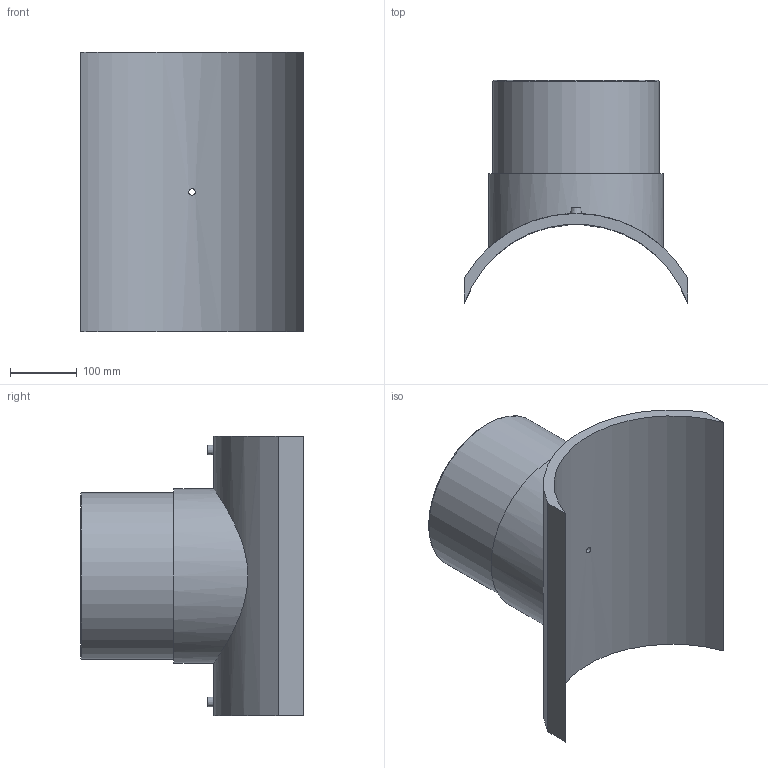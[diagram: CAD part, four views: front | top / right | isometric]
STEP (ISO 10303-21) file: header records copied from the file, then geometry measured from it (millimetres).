
FILE_DESCRIPTION(/* description */ ('PLASSON BRANCH SADDLE 355x250'),/* implementation_level */ '2;1');
FILE_NAME(/* name */ 'C:\Dropbox\KIMPROJECTS-Inventor 2019\99-16-3568-Processing\ElectroFusion Fittings\495803\stp\495803355250T.stp',/* time_stamp */ '2024-04-04T11:50:14+02:00',/* author */ ('KIM'),/* organization */ (''),/* preprocessor_version */ 'ST-DEVELOPER v17.2',/* originating_system */ 'Autodesk Inventor 2019',/* authorisation */ '');
FILE_SCHEMA (('AUTOMOTIVE_DESIGN { 1 0 10303 214 3 1 1 }'));
Length unit declared in the file: millimetre
Products named in the file (1): 495803355250T
Bounding box: 335 x 334.76 x 420 mm (x, y, z)
Volume: 7097566.4 mm3; surface area: 720119.2 mm2
Topology: 1 solids, 1 shells, 29 faces, 60 edges, 43 vertices
Faces by surface type: plane 13, cylinder 12, torus 2, cone 2
Full cylindrical faces by diameter (mm): 4 x2, 9.6 x1, 10 x2, 16 x1, 200 x1, 250 x1, 262.5 x1
Entity records: 1094 total; most frequent: CARTESIAN_POINT 408, DIRECTION 139, ORIENTED_EDGE 120, EDGE_CURVE 60, AXIS2_PLACEMENT_3D 60, VERTEX_POINT 43, EDGE_LOOP 41, CIRCLE 30
